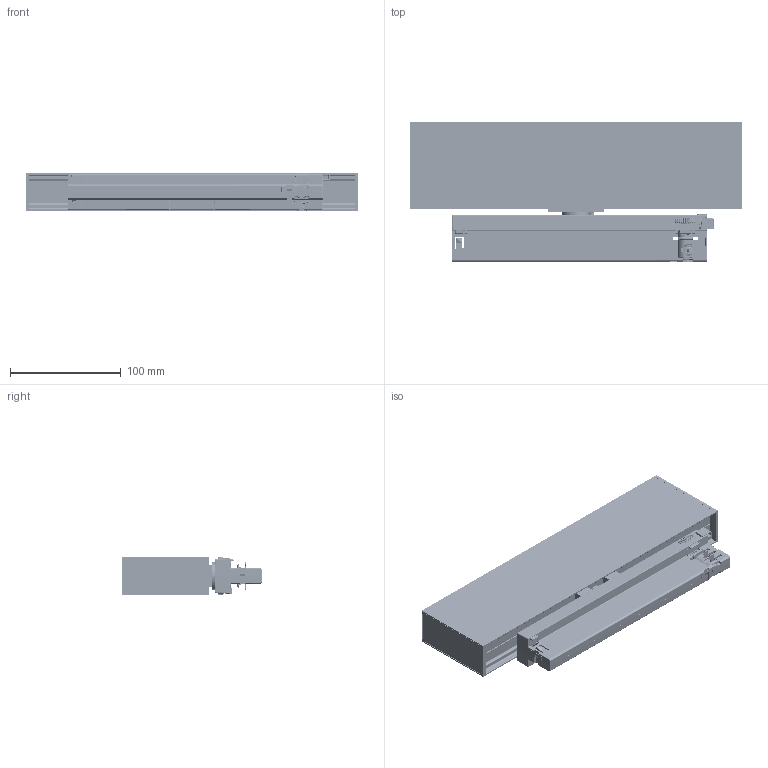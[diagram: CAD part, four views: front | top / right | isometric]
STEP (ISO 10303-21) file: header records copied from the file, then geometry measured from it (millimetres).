
FILE_DESCRIPTION(/* description */ (''),/* implementation_level */ '2;1');
FILE_NAME(/* name */ 'C:\Users\quotes\OneDrive - M LIGHT PTY LTD\Documents\Inventor\Projects\Mlight Projects Team\ENGINEERING - CAD\Favors\Akhila\Track Step File\mLight_Evelo12 Track Module_Simplify_1.stp',/* time_stamp */ '2024-06-03T15:57:58+10:00',/* author */ ('quotes'),/* organization */ (''),/* preprocessor_version */ 'ST-DEVELOPER v18.1',/* originating_system */ 'Autodesk Inventor 2022',/* authorisation */ '');
FILE_SCHEMA (('AUTOMOTIVE_DESIGN { 1 0 10303 214 3 1 1 }'));
Products named in the file (1): mLight_Evelo12 Track Module_Simplify_1
Bounding box: 300 x 126.57 x 34.99 mm (x, y, z)
Volume: 286372.8 mm3; surface area: 324577.2 mm2
Topology: 7 solids, 7 shells, 9824 faces, 28069 edges, 17968 vertices
Faces by surface type: plane 4070, cylinder 2879, bspline 1734, cone 542, torus 344, sphere 255
Full cylindrical faces by diameter (mm): 0.376 x3, 0.843 x2, 0.85 x6, 1.414 x4, 1.478 x2, 1.5 x1, 1.7 x4, 1.97 x2, 2 x3, 2.1 x3, 2.16 x3, 2.167 x4, 2.463 x2, 2.8 x5, 2.956 x3, 3 x5, 3.076 x3, 3.108 x3, 3.3 x2, 3.972 x2, 4.5 x4, 5.2 x1, 5.6 x1, 6 x1, 6.8 x1, 8.8 x1, 10 x2, 10.8 x8, 13.4 x1, 13.9 x1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
Entity records: 639110 total; most frequent: CARTESIAN_POINT 385408, ORIENTED_EDGE 55986, DIRECTION 45407, EDGE_CURVE 27993, VERTEX_POINT 17960, AXIS2_PLACEMENT_3D 16035, LINE 13337, VECTOR 13337
